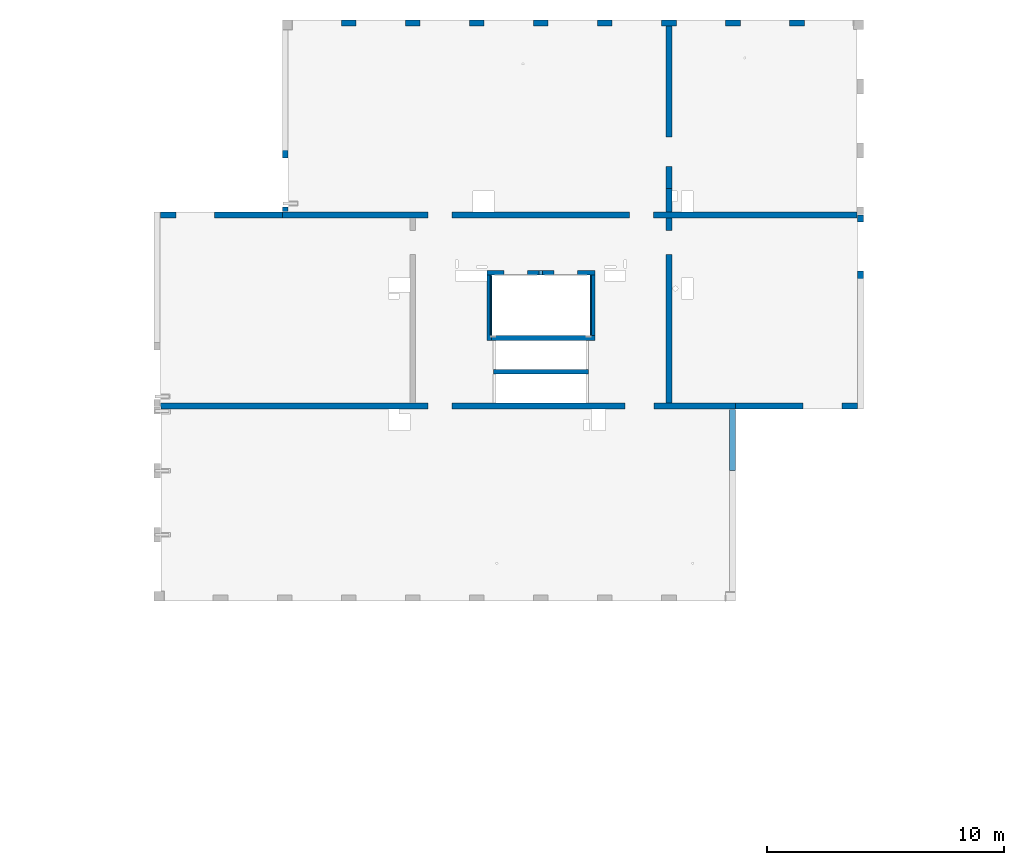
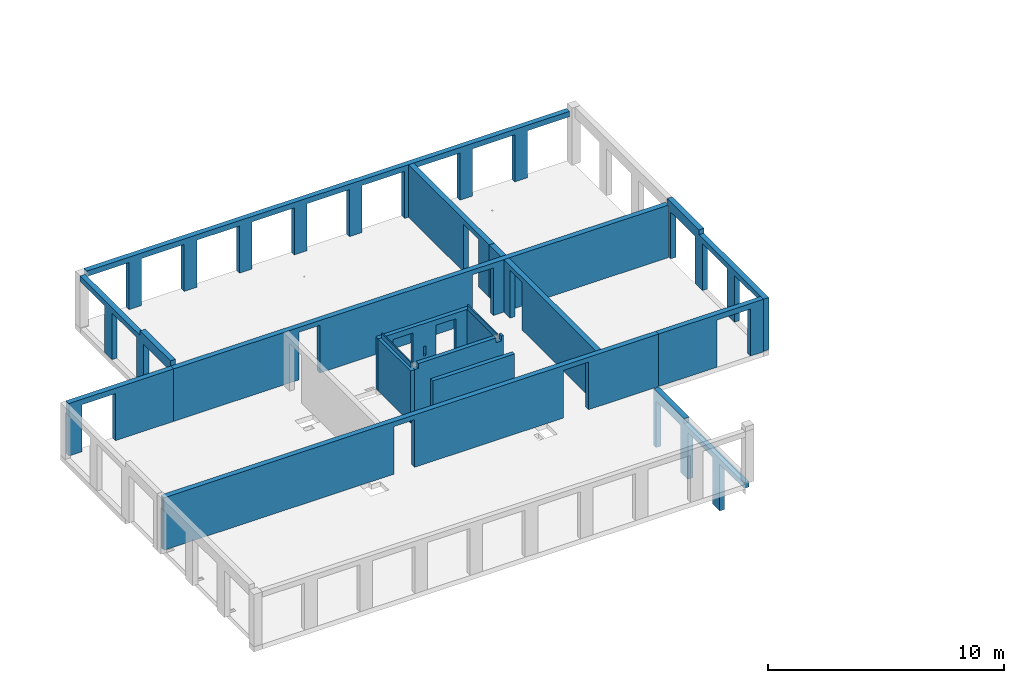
# One storey, part 4 of 12: 18 walls, 35 openings.
"""IFC2X3 building model written with IfcOpenShell, lengths in millimetres."""

from ifc_helpers import new_model, entity, si_unit, converted_unit, derived_unit, direction, frame, frame_2d, origin, origin_2d_with_axis, place, context, subcontext, project, spatial, rectangle, extrude, material, layer, layer_set, layer_usage, type_object, element, save


model = new_model("IFC2X3")

# Units and contexts
model_context = context("Model", 3, precision=0.01, world=origin(), true_north=direction((6.12303176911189e-17, 1.0)))
body_context = subcontext(model_context, "Body", "Model", "MODEL_VIEW")
ifc_project = project(units=[si_unit("LENGTHUNIT", "METRE", prefix="MILLI"), si_unit("AREAUNIT", "SQUARE_METRE"), si_unit("VOLUMEUNIT", "CUBIC_METRE"), converted_unit("PLANEANGLEUNIT", "DEGREE", entity("IfcRatioMeasure", 0.0174532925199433), si_unit("PLANEANGLEUNIT", "RADIAN"), dimensions=[0, 0, 0, 0, 0, 0, 0]), si_unit("MASSUNIT", "GRAM", prefix="KILO"), derived_unit("MASSDENSITYUNIT", [(si_unit("MASSUNIT", "GRAM", prefix="KILO"), 1), (si_unit("LENGTHUNIT", "METRE"), -3)]), si_unit("TIMEUNIT", "SECOND"), si_unit("FREQUENCYUNIT", "HERTZ"), si_unit("THERMODYNAMICTEMPERATUREUNIT", "DEGREE_CELSIUS"), derived_unit("THERMALTRANSMITTANCEUNIT", [(si_unit("MASSUNIT", "GRAM", prefix="KILO"), 1), (si_unit("THERMODYNAMICTEMPERATUREUNIT", "KELVIN"), -1), (si_unit("TIMEUNIT", "SECOND"), -3)]), derived_unit("VOLUMETRICFLOWRATEUNIT", [(si_unit("LENGTHUNIT", "METRE"), 3), (si_unit("TIMEUNIT", "SECOND"), -1)]), si_unit("ELECTRICCURRENTUNIT", "AMPERE"), si_unit("ELECTRICVOLTAGEUNIT", "VOLT"), si_unit("POWERUNIT", "WATT"), si_unit("FORCEUNIT", "NEWTON", prefix="KILO"), si_unit("ILLUMINANCEUNIT", "LUX"), si_unit("LUMINOUSFLUXUNIT", "LUMEN"), si_unit("LUMINOUSINTENSITYUNIT", "CANDELA"), derived_unit("USERDEFINED", [(si_unit("MASSUNIT", "GRAM", prefix="KILO"), -1), (si_unit("LENGTHUNIT", "METRE"), -2), (si_unit("TIMEUNIT", "SECOND"), 3), (si_unit("LUMINOUSFLUXUNIT", "LUMEN"), 1)]), derived_unit("LINEARVELOCITYUNIT", [(si_unit("LENGTHUNIT", "METRE"), 1), (si_unit("TIMEUNIT", "SECOND"), -1)]), si_unit("PRESSUREUNIT", "PASCAL"), derived_unit("USERDEFINED", [(si_unit("LENGTHUNIT", "METRE"), -2), (si_unit("MASSUNIT", "GRAM", prefix="KILO"), 1), (si_unit("TIMEUNIT", "SECOND"), -2)])], contexts=[model_context])

# Site, building, storey
site_placement = place(None, origin())
site = spatial("IfcSite", under=ifc_project, at=site_placement, Name="Default", CompositionType="ELEMENT")
building_placement = place(site_placement, origin())
building = spatial("IfcBuilding", under=site, at=building_placement, Name="niet gebruiken", CompositionType="ELEMENT")
storey_placement = place(building_placement, frame((0.0, 0.0, 18540.0)))
storey = spatial("IfcBuildingStorey", under=building, at=storey_placement, Name="06 zesde verdieping", CompositionType="ELEMENT", Elevation=18540.0)

# Wall, openings
ifc_material_1 = material(Name="NLRS_f2_beton ihwg")
ifc_layer_1 = layer(ifc_material_1, 250.0)
ifc_layer_set_1 = layer_set([ifc_layer_1], Name="Basic Wall:NLRS_22.21_WA_beton ihwg d=250_gen")
ifc_layer_usage_1 = layer_usage(ifc_layer_set_1, "AXIS2", "NEGATIVE", 125.0)
wall_type_1 = type_object("IfcWallType", Name="Basic Wall:NLRS_22.21_WA_beton ihwg d=250_gen", PredefinedType="STANDARD", material=ifc_layer_set_1)
wall_1_placement = place(storey_placement, frame((27170.0, 36981.0, -90.0)))
wall_1 = element("IfcWallStandardCase", 1, at=wall_1_placement, inside=storey, type_object=wall_type_1, material=ifc_layer_usage_1, Name="Basic Wall:NLRS_22.21_WA_beton ihwg d=250_gen", ObjectType="Basic Wall:NLRS_22.21_WA_beton ihwg d=250_gen", context=body_context, shape_type="SweptSolid", body=[
    extrude(rectangle(XDim=24230.0, YDim=250.000000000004, at=frame_2d((12115.0, 0.0), x_axis=(-1.0, 0.0))), origin(), (0.0, 0.0, 1.0), 2719.99999999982),
])
opening_1_placement = place(wall_1_placement, origin())
element("IfcOpeningElement", 2, at=opening_1_placement, cuts=wall_1, Name="Basic Wall:NLRS_22.21_WA_beton ihwg d=250_gen", ObjectType="Opening", context=body_context, shape_type="SweptSolid", body=[
    extrude(rectangle(XDim=2470.0, YDim=1225.0, at=frame_2d((0.0, 0.0), x_axis=(0.0, 1.0))), frame((20192.5000000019, -1399.0, 1235.0), z_axis=(0.0, 1.0, 0.0), x_axis=(-1.0, 0.0, 0.0)), (0.0, 0.0, 1.0), 3048.0),
])
opening_2_placement = place(wall_1_placement, origin())
element("IfcOpeningElement", 3, at=opening_2_placement, cuts=wall_1, Name="Basic Wall:NLRS_22.21_WA_beton ihwg d=250_gen", ObjectType="Opening", context=body_context, shape_type="SweptSolid", body=[
    extrude(rectangle(XDim=2470.0, YDim=1006.0, at=frame_2d((2.1600499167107e-12, 3.29691829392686e-12), x_axis=(0.0, 1.0))), frame((11782.0, -1399.0, 1235.0), z_axis=(0.0, 1.0, 0.0), x_axis=(-1.0, 0.0, 0.0)), (0.0, 0.0, 1.0), 3048.0),
])
opening_3_placement = place(wall_1_placement, origin())
element("IfcOpeningElement", 4, at=opening_3_placement, cuts=wall_1, Name="Basic Wall:NLRS_22.21_WA_beton ihwg d=250_gen", ObjectType="Recess", context=body_context, shape_type="SweptSolid", body=[
    extrude(rectangle(XDim=55000.0, YDim=20.0000000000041, at=frame_2d((0.0, -2.16626716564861e-12), x_axis=(1.0, 0.0))), frame((10.0, -140.0, 21560.0), z_axis=(0.0, 1.0, 0.0), x_axis=(0.0, 0.0, -1.0)), (0.0, 0.0, 1.0), 124.999999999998),
])

# Wall, opening
ifc_layer_usage_2 = layer_usage(ifc_layer_set_1, "AXIS2", "NEGATIVE", 125.0)
wall_2_placement = place(storey_placement, frame((27170.0, 45031.0, -90.0)))
wall_2 = element("IfcWallStandardCase", 5, at=wall_2_placement, inside=storey, type_object=wall_type_1, material=ifc_layer_usage_2, Name="Basic Wall:NLRS_22.21_WA_beton ihwg d=250_gen", ObjectType="Basic Wall:NLRS_22.21_WA_beton ihwg d=250_gen", context=body_context, shape_type="SweptSolid", body=[
    extrude(rectangle(XDim=5130.0, YDim=249.999999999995, at=frame_2d((2565.0, 0.0), x_axis=(-1.0, 0.0))), origin(), (0.0, 0.0, 1.0), 2719.99999999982),
])
opening_4_placement = place(wall_2_placement, origin())
element("IfcOpeningElement", 6, at=opening_4_placement, cuts=wall_2, Name="Basic Wall:NLRS_22.21_WA_beton ihwg d=250_gen", ObjectType="Opening", context=body_context, shape_type="SweptSolid", body=[
    extrude(rectangle(XDim=2440.0, YDim=1640.0, at=frame_2d((-1.13686837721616e-12, 0.0), x_axis=(1.0, 0.0))), frame((1460.0, -1649.0, 1220.0), z_axis=(0.0, 1.0, 0.0), x_axis=(0.0, 0.0, 1.0)), (0.0, 0.0, 1.0), 3048.0),
])

ifc_layer_usage_3 = layer_usage(ifc_layer_set_1, "AXIS2", "NEGATIVE", 125.0)
wall_3_placement = place(storey_placement, frame((48600.0, 53006.0, -90.0), z_axis=(0.0, 0.0, 1.0), x_axis=(0.0, -1.0, 0.0)))
wall_3 = element("IfcWallStandardCase", 7, at=wall_3_placement, inside=storey, type_object=wall_type_1, material=ifc_layer_usage_3, Name="Basic Wall:NLRS_22.21_WA_beton ihwg d=250_gen", ObjectType="Basic Wall:NLRS_22.21_WA_beton ihwg d=250_gen", context=body_context, shape_type="SweptSolid", body=[
    extrude(rectangle(XDim=6850.00000000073, YDim=249.999999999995, at=frame_2d((3425.00000000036, -1.10134124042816e-12), x_axis=(-1.0, 0.0))), origin(), (0.0, 0.0, 1.0), 2719.99999999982),
])
opening_5_placement = place(wall_3_placement, origin())
element("IfcOpeningElement", 8, at=opening_5_placement, cuts=wall_3, Name="Basic Wall:NLRS_22.21_WA_beton ihwg d=250_gen", ObjectType="Opening", context=body_context, shape_type="SweptSolid", body=[
    extrude(rectangle(XDim=2470.0, YDim=1240.0, at=frame_2d((0.0, 4.37694325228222e-12), x_axis=(1.0, 0.0))), frame((5300.0, -1649.0, 1235.0), z_axis=(0.0, 1.0, 0.0), x_axis=(0.0, 0.0, 1.0)), (0.0, 0.0, 1.0), 3048.0),
])

ifc_layer_usage_4 = layer_usage(ifc_layer_set_1, "AXIS2", "NEGATIVE", 125.0)
wall_4_placement = place(storey_placement, frame((48600.0, 44906.0, -90.0), z_axis=(0.0, 0.0, 1.0), x_axis=(0.0, -1.0, 0.0)))
wall_4 = element("IfcWallStandardCase", 9, at=wall_4_placement, inside=storey, type_object=wall_type_1, material=ifc_layer_usage_4, Name="Basic Wall:NLRS_22.21_WA_beton ihwg d=250_gen", ObjectType="Basic Wall:NLRS_22.21_WA_beton ihwg d=250_gen", context=body_context, shape_type="SweptSolid", body=[
    extrude(rectangle(XDim=7799.99999999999, YDim=249.999999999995, at=frame_2d((3900.0, 0.0), x_axis=(-1.0, 0.0))), origin(), (0.0, 0.0, 1.0), 2719.99999999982),
])
opening_6_placement = place(wall_4_placement, origin())
element("IfcOpeningElement", 10, at=opening_6_placement, cuts=wall_4, Name="Basic Wall:NLRS_22.21_WA_beton ihwg d=250_gen", ObjectType="Opening", context=body_context, shape_type="SweptSolid", body=[
    extrude(rectangle(XDim=2470.0, YDim=1006.0, at=origin_2d_with_axis()), frame((1027.0, -1649.0, 1235.0), z_axis=(0.0, 1.0, 0.0), x_axis=(0.0, 0.0, 1.0)), (0.0, 0.0, 1.0), 3048.0),
])

# Wall, openings
ifc_layer_usage_5 = layer_usage(ifc_layer_set_1, "AXIS2", "NEGATIVE", 125.0)
wall_5_placement = place(storey_placement, frame((32300.0, 45031.0, -90.0)))
wall_5 = element("IfcWallStandardCase", 11, at=wall_5_placement, inside=storey, type_object=wall_type_1, material=ifc_layer_usage_5, Name="Basic Wall:NLRS_22.21_WA_beton ihwg d=250_gen", ObjectType="Basic Wall:NLRS_22.21_WA_beton ihwg d=250_gen", context=body_context, shape_type="SweptSolid", body=[
    extrude(rectangle(XDim=24230.0000000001, YDim=249.999999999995, at=frame_2d((12115.0000000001, 0.0), x_axis=(-1.0, 0.0))), origin(), (0.0, 0.0, 1.0), 2719.99999999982),
])
opening_7_placement = place(wall_5_placement, origin())
element("IfcOpeningElement", 12, at=opening_7_placement, cuts=wall_5, Name="Basic Wall:NLRS_22.21_WA_beton ihwg d=250_gen", ObjectType="Opening", context=body_context, shape_type="SweptSolid", body=[
    extrude(rectangle(XDim=2470.0, YDim=1006.0, at=origin_2d_with_axis()), frame((15148.0, -1649.0, 1235.0), z_axis=(0.0, 1.0, 0.0), x_axis=(0.0, 0.0, 1.0)), (0.0, 0.0, 1.0), 3048.0),
])
opening_8_placement = place(wall_5_placement, origin())
element("IfcOpeningElement", 13, at=opening_8_placement, cuts=wall_5, Name="Basic Wall:NLRS_22.21_WA_beton ihwg d=250_gen", ObjectType="Opening", context=body_context, shape_type="SweptSolid", body=[
    extrude(rectangle(XDim=2470.0, YDim=1006.0, at=frame_2d((0.0, 2.1600499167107e-12), x_axis=(1.0, 0.0))), frame((6652.0, -1649.0, 1235.0), z_axis=(0.0, 1.0, 0.0), x_axis=(0.0, 0.0, 1.0)), (0.0, 0.0, 1.0), 3048.0),
])

# Wall, opening
ifc_layer_usage_6 = layer_usage(ifc_layer_set_1, "AXIS2", "NEGATIVE", 125.0)
wall_6_placement = place(storey_placement, frame((51400.0, 36981.0, -90.0)))
wall_6 = element("IfcWallStandardCase", 14, at=wall_6_placement, inside=storey, type_object=wall_type_1, material=ifc_layer_usage_6, Name="Basic Wall:NLRS_22.21_WA_beton ihwg d=250_gen", ObjectType="Basic Wall:NLRS_22.21_WA_beton ihwg d=250_gen", context=body_context, shape_type="SweptSolid", body=[
    extrude(rectangle(XDim=5150.0, YDim=250.000000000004, at=frame_2d((2575.0, 0.0), x_axis=(-1.0, 0.0))), origin(), (0.0, 0.0, 1.0), 2719.99999999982),
])
opening_9_placement = place(wall_6_placement, origin())
element("IfcOpeningElement", 15, at=opening_9_placement, cuts=wall_6, Name="Basic Wall:NLRS_22.21_WA_beton ihwg d=250_gen", ObjectType="Opening", context=body_context, shape_type="SweptSolid", body=[
    extrude(rectangle(XDim=2440.0, YDim=1640.0, at=frame_2d((4.37694325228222e-12, -1.13686837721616e-12), x_axis=(0.0, 1.0))), frame((3670.0, -1399.0, 1220.0), z_axis=(0.0, 1.0, 0.0), x_axis=(-1.0, 0.0, 0.0)), (0.0, 0.0, 1.0), 3048.0),
])

# Wall
ifc_layer_usage_7 = layer_usage(ifc_layer_set_1, "AXIS2", "NEGATIVE", 125.0)
wall_7_placement = place(storey_placement, frame((48600.0, 46156.0, -90.0), z_axis=(0.0, 0.0, 1.0), x_axis=(0.0, -1.0, 0.0)))
element("IfcWallStandardCase", 16, at=wall_7_placement, inside=storey, type_object=wall_type_1, material=ifc_layer_usage_7, Name="Basic Wall:NLRS_22.21_WA_beton ihwg d=250_gen", ObjectType="Basic Wall:NLRS_22.21_WA_beton ihwg d=250_gen", context=body_context, shape_type="SweptSolid", body=[
    extrude(rectangle(XDim=999.999999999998, YDim=249.999999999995, at=frame_2d((499.999999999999, 1.10134124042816e-12), x_axis=(-1.0, 0.0))), origin(), (0.0, 0.0, 1.0), 2719.99999999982),
])

# Wall, openings
ifc_material_2 = material(Name="NLRS_f2_beton prefab")
ifc_layer_2 = layer(ifc_material_2, 250.0)
ifc_layer_set_2 = layer_set([ifc_layer_2], Name="Basic Wall:NLRS_21.21_WA_beton prefab d=250_gen")
ifc_layer_usage_8 = layer_usage(ifc_layer_set_2, "AXIS2", "NEGATIVE", 125.0)
wall_type_2 = type_object("IfcWallType", Name="Basic Wall:NLRS_21.21_WA_beton prefab d=250_gen", PredefinedType="STANDARD", material=ifc_layer_set_2)
wall_8_placement = place(storey_placement, frame((32425.0, 52846.0, -70.0), z_axis=(0.0, 0.0, 1.0), x_axis=(0.0, -1.0, 0.0)))
wall_8 = element("IfcWallStandardCase", 17, at=wall_8_placement, inside=storey, type_object=wall_type_2, material=ifc_layer_usage_8, Name="Basic Wall:NLRS_21.21_WA_beton prefab d=250_gen", ObjectType="Basic Wall:NLRS_21.21_WA_beton prefab d=250_gen", context=body_context, shape_type="SweptSolid", body=[
    extrude(rectangle(XDim=7670.00000000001, YDim=250.000000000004, at=frame_2d((3835.0, 0.0), x_axis=(-1.0, 0.0))), origin(), (0.0, 0.0, 1.0), 2949.99999999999),
])
opening_10_placement = place(wall_8_placement, origin())
element("IfcOpeningElement", 18, at=opening_10_placement, cuts=wall_8, Name="Basic Wall:NLRS_21.21_WA_beton prefab d=250_gen", ObjectType="Opening", context=body_context, shape_type="SweptSolid", body=[
    extrude(rectangle(XDim=2420.0, YDim=2080.0, at=frame_2d((8.64019966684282e-12, 2.1600499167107e-12), x_axis=(0.0, 1.0))), frame((1040.0, -1399.0, 1210.0), z_axis=(0.0, 1.0, 0.0), x_axis=(-1.0, 0.0, 0.0)), (0.0, 0.0, 1.0), 3048.0),
])
opening_11_placement = place(wall_8_placement, origin())
element("IfcOpeningElement", 19, at=opening_11_placement, cuts=wall_8, Name="Basic Wall:NLRS_21.21_WA_beton prefab d=250_gen", ObjectType="Opening", context=body_context, shape_type="SweptSolid", body=[
    extrude(rectangle(XDim=2420.0, YDim=2080.0, at=frame_2d((0.0, -2.1600499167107e-12), x_axis=(0.0, 1.0))), frame((3740.0, -1399.0, 1210.0), z_axis=(0.0, 1.0, 0.0), x_axis=(-1.0, 0.0, 0.0)), (0.0, 0.0, 1.0), 3048.0),
])
opening_12_placement = place(wall_8_placement, origin())
element("IfcOpeningElement", 20, at=opening_12_placement, cuts=wall_8, Name="Basic Wall:NLRS_21.21_WA_beton prefab d=250_gen", ObjectType="Opening", context=body_context, shape_type="SweptSolid", body=[
    extrude(rectangle(XDim=2420.0, YDim=2080.0, at=frame_2d((0.0, 2.1600499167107e-12), x_axis=(0.0, 1.0))), frame((6440.0, -1399.0, 1210.0), z_axis=(0.0, 1.0, 0.0), x_axis=(-1.0, 0.0, 0.0)), (0.0, 0.0, 1.0), 3048.0),
])
opening_13_placement = place(wall_8_placement, origin())
element("IfcOpeningElement", 21, at=opening_13_placement, cuts=wall_8, Name="Basic Wall:NLRS_21.21_WA_beton prefab d=250_gen", ObjectType="Opening", context=body_context, shape_type="SweptSolid", body=[
    extrude(rectangle(XDim=250.000000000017, YDim=5089.99999999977, at=frame_2d((4.32009983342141e-12, 2.16715534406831e-12), x_axis=(0.0, 1.0))), frame((2545.0, 125.0, 2825.0), z_axis=(0.0, -1.0, 0.0), x_axis=(-1.0, 0.0, 0.0)), (0.0, 0.0, 1.0), 250.0),
])

ifc_layer_usage_9 = layer_usage(ifc_layer_set_2, "AXIS2", "NEGATIVE", 125.0)
wall_9_placement = place(storey_placement, frame((56675.0, 45046.0, -70.0), z_axis=(0.0, 0.0, 1.0), x_axis=(0.0, -1.0, 0.0)))
wall_9 = element("IfcWallStandardCase", 22, at=wall_9_placement, inside=storey, type_object=wall_type_2, material=ifc_layer_usage_9, Name="Basic Wall:NLRS_21.21_WA_beton prefab d=250_gen", ObjectType="Basic Wall:NLRS_21.21_WA_beton prefab d=250_gen", context=body_context, shape_type="SweptSolid", body=[
    extrude(rectangle(XDim=8189.99999999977, YDim=249.999999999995, at=frame_2d((4094.99999999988, 0.0), x_axis=(-1.0, 0.0))), origin(), (0.0, 0.0, 1.0), 2949.99999999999),
])
opening_14_placement = place(wall_9_placement, origin())
element("IfcOpeningElement", 23, at=opening_14_placement, cuts=wall_9, Name="Basic Wall:NLRS_21.21_WA_beton prefab d=250_gen", ObjectType="Opening", context=body_context, shape_type="SweptSolid", body=[
    extrude(rectangle(XDim=2420.0, YDim=2080.0, at=frame_2d((0.0, 1.02318153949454e-12), x_axis=(0.0, 1.0))), frame((1340.0, -1399.0, 1210.0), z_axis=(0.0, 1.0, 0.0), x_axis=(-1.0, 0.0, 0.0)), (0.0, 0.0, 1.0), 3048.0),
])
opening_15_placement = place(wall_9_placement, origin())
element("IfcOpeningElement", 24, at=opening_15_placement, cuts=wall_9, Name="Basic Wall:NLRS_21.21_WA_beton prefab d=250_gen", ObjectType="Opening", context=body_context, shape_type="SweptSolid", body=[
    extrude(rectangle(XDim=2420.0, YDim=2080.0, at=frame_2d((0.0, 1.02318153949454e-12), x_axis=(0.0, 1.0))), frame((4040.0, -1399.0, 1210.0), z_axis=(0.0, 1.0, 0.0), x_axis=(-1.0, 0.0, 0.0)), (0.0, 0.0, 1.0), 3048.0),
])
opening_16_placement = place(wall_9_placement, origin())
element("IfcOpeningElement", 25, at=opening_16_placement, cuts=wall_9, Name="Basic Wall:NLRS_21.21_WA_beton prefab d=250_gen", ObjectType="Opening", context=body_context, shape_type="SweptSolid", body=[
    extrude(rectangle(XDim=2420.0, YDim=2080.0, at=frame_2d((0.0, 1.02318153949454e-12), x_axis=(0.0, 1.0))), frame((6740.0, -1399.0, 1210.0), z_axis=(0.0, 1.0, 0.0), x_axis=(-1.0, 0.0, 0.0)), (0.0, 0.0, 1.0), 3048.0),
])
opening_17_placement = place(wall_9_placement, origin())
element("IfcOpeningElement", 26, at=opening_17_placement, cuts=wall_9, Name="Basic Wall:NLRS_21.21_WA_beton prefab d=250_gen", ObjectType="Opening", context=body_context, shape_type="SweptSolid", body=[
    extrude(rectangle(XDim=249.999999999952, YDim=5500.0000000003, at=frame_2d((4.33431068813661e-12, -4.32009983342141e-12), x_axis=(1.0, 0.0))), frame((5440.0, 125.0, 2825.0), z_axis=(0.0, -1.0, 0.0), x_axis=(0.0, 0.0, 1.0)), (0.0, 0.0, 1.0), 250.0),
])

ifc_layer_usage_10 = layer_usage(ifc_layer_set_2, "AXIS2", "NEGATIVE", 125.0)
wall_10_placement = place(storey_placement, frame((51275.0, 29166.0, -3040.0), z_axis=(0.0, 0.0, 1.0), x_axis=(0.0, 1.0, 0.0)))
wall_10 = element("IfcWallStandardCase", 27, at=wall_10_placement, inside=storey, type_object=wall_type_2, material=ifc_layer_usage_10, Name="Basic Wall:NLRS_21.21_WA_beton prefab d=250_gen", ObjectType="Basic Wall:NLRS_21.21_WA_beton prefab d=250_gen", context=body_context, shape_type="SweptSolid", body=[
    extrude(rectangle(XDim=7669.99999999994, YDim=249.999999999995, at=frame_2d((3834.99999999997, 0.0), x_axis=(-1.0, 0.0))), origin(), (0.0, 0.0, 1.0), 2949.99999999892),
])
opening_18_placement = place(wall_10_placement, origin())
element("IfcOpeningElement", 28, at=opening_18_placement, cuts=wall_10, Name="Basic Wall:NLRS_21.21_WA_beton prefab d=250_gen", ObjectType="Opening", context=body_context, shape_type="SweptSolid", body=[
    extrude(rectangle(XDim=2420.0, YDim=2080.0, at=frame_2d((2.1600499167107e-12, -1.02318153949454e-12), x_axis=(0.0, 1.0))), frame((1040.0, -1399.0, 1210.0), z_axis=(0.0, 1.0, 0.0), x_axis=(-1.0, 0.0, 0.0)), (0.0, 0.0, 1.0), 3048.0),
])
opening_19_placement = place(wall_10_placement, origin())
element("IfcOpeningElement", 29, at=opening_19_placement, cuts=wall_10, Name="Basic Wall:NLRS_21.21_WA_beton prefab d=250_gen", ObjectType="Opening", context=body_context, shape_type="SweptSolid", body=[
    extrude(rectangle(XDim=2420.0, YDim=2080.0, at=frame_2d((2.1600499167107e-12, -1.02318153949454e-12), x_axis=(0.0, 1.0))), frame((3740.0, -1399.0, 1210.0), z_axis=(0.0, 1.0, 0.0), x_axis=(-1.0, 0.0, 0.0)), (0.0, 0.0, 1.0), 3048.0),
])
opening_20_placement = place(wall_10_placement, origin())
element("IfcOpeningElement", 30, at=opening_20_placement, cuts=wall_10, Name="Basic Wall:NLRS_21.21_WA_beton prefab d=250_gen", ObjectType="Opening", context=body_context, shape_type="SweptSolid", body=[
    extrude(rectangle(XDim=2420.0, YDim=2080.0, at=frame_2d((2.1600499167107e-12, -1.02318153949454e-12), x_axis=(0.0, 1.0))), frame((6440.0, -1399.0, 1210.0), z_axis=(0.0, 1.0, 0.0), x_axis=(-1.0, 0.0, 0.0)), (0.0, 0.0, 1.0), 3048.0),
])
opening_21_placement = place(wall_10_placement, origin())
element("IfcOpeningElement", 31, at=opening_21_placement, cuts=wall_10, Name="Basic Wall:NLRS_21.21_WA_beton prefab d=250_gen", ObjectType="Opening", context=body_context, shape_type="SweptSolid", body=[
    extrude(rectangle(XDim=249.999999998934, YDim=5090.00000000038, at=frame_2d((0.0, -2.16715534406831e-12), x_axis=(0.0, 1.0))), frame((2545.0, 125.0, 2825.0), z_axis=(0.0, -1.0, 0.0), x_axis=(-1.0, 0.0, 0.0)), (0.0, 0.0, 1.0), 250.0),
])

# Wall
ifc_layer_3 = layer(ifc_material_2, 200.0)
ifc_layer_set_3 = layer_set([ifc_layer_3], Name="Basic Wall:NLRS_21.21_WA_beton prefab d=200_gen")
ifc_layer_usage_11 = layer_usage(ifc_layer_set_3, "AXIS2", "NEGATIVE", 100.0)
wall_type_3 = type_object("IfcWallType", Name="Basic Wall:NLRS_21.21_WA_beton prefab d=200_gen", PredefinedType="STANDARD", material=ifc_layer_set_3)
wall_11_placement = place(storey_placement, frame((41200.0, 38426.0, -70.0)))
element("IfcWallStandardCase", 32, at=wall_11_placement, inside=storey, type_object=wall_type_3, material=ifc_layer_usage_11, Name="Basic Wall:NLRS_21.21_WA_beton prefab d=200_gen", ObjectType="Basic Wall:NLRS_21.21_WA_beton prefab d=200_gen", context=body_context, shape_type="SweptSolid", body=[
    extrude(rectangle(XDim=3999.99999999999, YDim=199.999999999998, at=frame_2d((2000.0, 0.0), x_axis=(-1.0, 0.0))), origin(), (0.0, 0.0, 1.0), 2950.00000000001),
])

# Wall, openings
ifc_layer_4 = layer(ifc_material_2, 200.0)
ifc_layer_set_4 = layer_set([ifc_layer_4], Name="Basic Wall:NLRS_22.21_WA_beton prefab d=200_gen")
ifc_layer_usage_12 = layer_usage(ifc_layer_set_4, "AXIS2", "NEGATIVE", 100.0)
wall_type_4 = type_object("IfcWallType", Name="Basic Wall:NLRS_22.21_WA_beton prefab d=200_gen", PredefinedType="STANDARD", material=ifc_layer_set_4)
wall_12_placement = place(storey_placement, frame((40925.0, 42596.0, -70.0)))
wall_12 = element("IfcWallStandardCase", 33, at=wall_12_placement, inside=storey, type_object=wall_type_4, material=ifc_layer_usage_12, Name="Basic Wall:NLRS_22.21_WA_beton prefab d=200_gen", ObjectType="Basic Wall:NLRS_22.21_WA_beton prefab d=200_gen", context=body_context, shape_type="SweptSolid", body=[
    extrude(rectangle(XDim=4549.99999999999, YDim=200.000000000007, at=frame_2d((2274.99999999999, 7.8159700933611e-13), x_axis=(-1.0, 0.0))), origin(), (0.0, 0.0, 1.0), 2700.00000000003),
])
opening_22_placement = place(wall_12_placement, origin())
element("IfcOpeningElement", 34, at=opening_22_placement, cuts=wall_12, Name="Basic Wall:NLRS_22.21_WA_beton prefab d=200_gen", ObjectType="Opening", context=body_context, shape_type="SweptSolid", body=[
    extrude(rectangle(XDim=2430.0, YDim=980.000000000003, at=origin_2d_with_axis()), frame((1219.99984910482, -1624.0, 1195.0), z_axis=(0.0, 1.0, 0.0), x_axis=(0.0, 0.0, 1.0)), (0.0, 0.0, 1.0), 3048.0),
])
opening_23_placement = place(wall_12_placement, origin())
element("IfcOpeningElement", 35, at=opening_23_placement, cuts=wall_12, Name="Basic Wall:NLRS_22.21_WA_beton prefab d=200_gen", ObjectType="Opening", context=body_context, shape_type="SweptSolid", body=[
    extrude(rectangle(XDim=2430.0, YDim=980.000000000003, at=origin_2d_with_axis()), frame((3329.99984910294, -1624.0, 1195.0), z_axis=(0.0, 1.0, 0.0), x_axis=(0.0, 0.0, 1.0)), (0.0, 0.0, 1.0), 3048.0),
])
opening_24_placement = place(wall_12_placement, origin())
element("IfcOpeningElement", 36, at=opening_24_placement, cuts=wall_12, Name="Basic Wall:NLRS_22.21_WA_beton prefab d=200_gen", ObjectType="Opening", context=body_context, shape_type="SweptSolid", body=[
    extrude(rectangle(XDim=505.000000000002, YDim=135.000000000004, at=frame_2d((-2.1600499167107e-12, 0.0), x_axis=(1.0, 0.0))), frame((2275.0, -1624.0, 1272.50000000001), z_axis=(0.0, 1.0, 0.0), x_axis=(0.0, 0.0, 1.0)), (0.0, 0.0, 1.0), 3048.0),
])

# Wall
ifc_layer_usage_13 = layer_usage(ifc_layer_set_4, "AXIS2", "NEGATIVE", 100.0)
wall_13_placement = place(storey_placement, frame((41025.0, 42496.0, -70.0), z_axis=(0.0, 0.0, 1.0), x_axis=(0.0, -1.0, 0.0)))
element("IfcWallStandardCase", 37, at=wall_13_placement, inside=storey, type_object=wall_type_4, material=ifc_layer_usage_13, Name="Basic Wall:NLRS_22.21_WA_beton prefab d=200_gen", ObjectType="Basic Wall:NLRS_22.21_WA_beton prefab d=200_gen", context=body_context, shape_type="SweptSolid", body=[
    extrude(rectangle(XDim=2749.99999999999, YDim=200.000000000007, at=frame_2d((1375.0, 0.0), x_axis=(-1.0, 0.0))), origin(), (0.0, 0.0, 1.0), 2700.00000000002),
])

# Wall, openings
ifc_layer_usage_14 = layer_usage(ifc_layer_set_4, "AXIS2", "NEGATIVE", 100.0)
wall_14_placement = place(storey_placement, frame((45475.0, 39846.0, -70.0), z_axis=(0.0, 0.0, 1.0), x_axis=(-1.0, 0.0, 0.0)))
wall_14 = element("IfcWallStandardCase", 38, at=wall_14_placement, inside=storey, type_object=wall_type_4, material=ifc_layer_usage_14, Name="Basic Wall:NLRS_22.21_WA_beton prefab d=200_gen", ObjectType="Basic Wall:NLRS_22.21_WA_beton prefab d=200_gen", context=body_context, shape_type="SweptSolid", body=[
    extrude(rectangle(XDim=4349.99999999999, YDim=200.000000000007, at=frame_2d((2174.99999999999, 0.0), x_axis=(-1.0, 0.0))), origin(), (0.0, 0.0, 1.0), 2950.0),
])
opening_25_placement = place(wall_14_placement, origin())
element("IfcOpeningElement", 39, at=opening_25_placement, cuts=wall_14, Name="Basic Wall:NLRS_22.21_WA_beton prefab d=200_gen", ObjectType="Opening", context=body_context, shape_type="SweptSolid", body=[
    extrude(rectangle(XDim=249.999999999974, YDim=274.9999671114, at=frame_2d((2.16715534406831e-12, -4.33431068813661e-12), x_axis=(1.0, 0.0))), frame((4312.50001644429, 100.0, 2825.0), z_axis=(0.0, -1.0, 0.0), x_axis=(0.0, 0.0, 1.0)), (0.0, 0.0, 1.0), 200.0),
])
opening_26_placement = place(wall_14_placement, origin())
element("IfcOpeningElement", 40, at=opening_26_placement, cuts=wall_14, Name="Basic Wall:NLRS_22.21_WA_beton prefab d=200_gen", ObjectType="Opening", context=body_context, shape_type="SweptSolid", body=[
    extrude(rectangle(XDim=249.999999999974, YDim=275.000032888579, at=frame_2d((4.32009983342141e-12, 2.16715534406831e-12), x_axis=(0.0, 1.0))), frame((237.500016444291, 100.0, 2825.0), z_axis=(0.0, -1.0, 0.0), x_axis=(-1.0, 0.0, 0.0)), (0.0, 0.0, 1.0), 200.0),
])

# Wall
ifc_layer_usage_15 = layer_usage(ifc_layer_set_4, "AXIS2", "NEGATIVE", 100.0)
wall_15_placement = place(storey_placement, frame((45375.0, 39946.0, -70.0), z_axis=(0.0, 0.0, 1.0), x_axis=(0.0, 1.0, 0.0)))
element("IfcWallStandardCase", 41, at=wall_15_placement, inside=storey, type_object=wall_type_4, material=ifc_layer_usage_15, Name="Basic Wall:NLRS_22.21_WA_beton prefab d=200_gen", ObjectType="Basic Wall:NLRS_22.21_WA_beton prefab d=200_gen", context=body_context, shape_type="SweptSolid", body=[
    extrude(rectangle(XDim=2549.99999999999, YDim=200.000000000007, at=frame_2d((1275.0, 0.0), x_axis=(-1.0, 0.0))), origin(), (0.0, 0.0, 1.0), 2700.00000000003),
])

# Wall, openings
ifc_layer_5 = layer(ifc_material_1, 250.0)
ifc_layer_set_5 = layer_set([ifc_layer_5], Name="Basic Wall:NLRS_21.21_WA_beton ihwg d=250_gen")
ifc_layer_usage_16 = layer_usage(ifc_layer_set_5, "AXIS2", "NEGATIVE", 125.0)
wall_type_5 = type_object("IfcWallType", Name="Basic Wall:NLRS_21.21_WA_beton ihwg d=250_gen", PredefinedType="STANDARD", material=ifc_layer_set_5)
wall_16_placement = place(storey_placement, frame((56370.0, 53131.0, -90.0), z_axis=(0.0, 0.0, 1.0), x_axis=(-1.0, 0.0, 0.0)))
wall_16 = element("IfcWallStandardCase", 42, at=wall_16_placement, inside=storey, type_object=wall_type_5, material=ifc_layer_usage_16, Name="Basic Wall:NLRS_21.21_WA_beton ihwg d=250_gen", ObjectType="Basic Wall:NLRS_21.21_WA_beton ihwg d=250_gen", context=body_context, shape_type="SweptSolid", body=[
    extrude(rectangle(XDim=23640.0000000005, YDim=249.999999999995, at=frame_2d((11820.0000000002, 5.82645043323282e-13), x_axis=(-1.0, 0.0))), origin(), (0.0, 0.0, 1.0), 2720.0),
])
opening_27_placement = place(wall_16_placement, origin())
element("IfcOpeningElement", 43, at=opening_27_placement, cuts=wall_16, Name="Basic Wall:NLRS_21.21_WA_beton ihwg d=250_gen", ObjectType="Opening", context=body_context, shape_type="SweptSolid", body=[
    extrude(rectangle(XDim=2440.0, YDim=2080.0, at=frame_2d((-2.1600499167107e-12, -2.1600499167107e-12), x_axis=(0.0, 1.0))), frame((22620.0, -1399.0, 1220.0), z_axis=(0.0, 1.0, 0.0), x_axis=(-1.0, 0.0, 0.0)), (0.0, 0.0, 1.0), 3048.0),
])
opening_28_placement = place(wall_16_placement, origin())
element("IfcOpeningElement", 44, at=opening_28_placement, cuts=wall_16, Name="Basic Wall:NLRS_21.21_WA_beton ihwg d=250_gen", ObjectType="Opening", context=body_context, shape_type="SweptSolid", body=[
    extrude(rectangle(XDim=2440.0, YDim=2080.0, at=frame_2d((2.1600499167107e-12, 0.0), x_axis=(0.0, 1.0))), frame((19920.0, -1399.0, 1220.0), z_axis=(0.0, 1.0, 0.0), x_axis=(-1.0, 0.0, 0.0)), (0.0, 0.0, 1.0), 3048.0),
])
opening_29_placement = place(wall_16_placement, origin())
element("IfcOpeningElement", 45, at=opening_29_placement, cuts=wall_16, Name="Basic Wall:NLRS_21.21_WA_beton ihwg d=250_gen", ObjectType="Opening", context=body_context, shape_type="SweptSolid", body=[
    extrude(rectangle(XDim=2440.0, YDim=2079.99999999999, at=frame_2d((2.1600499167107e-12, -2.1600499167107e-12), x_axis=(0.0, 1.0))), frame((17220.0, -1399.0, 1220.0), z_axis=(0.0, 1.0, 0.0), x_axis=(-1.0, 0.0, 0.0)), (0.0, 0.0, 1.0), 3048.0),
])
opening_30_placement = place(wall_16_placement, origin())
element("IfcOpeningElement", 46, at=opening_30_placement, cuts=wall_16, Name="Basic Wall:NLRS_21.21_WA_beton ihwg d=250_gen", ObjectType="Opening", context=body_context, shape_type="SweptSolid", body=[
    extrude(rectangle(XDim=2440.0, YDim=2080.0, at=frame_2d((0.0, 0.0), x_axis=(0.0, 1.0))), frame((14520.0, -1399.0, 1220.0), z_axis=(0.0, 1.0, 0.0), x_axis=(-1.0, 0.0, 0.0)), (0.0, 0.0, 1.0), 3048.0),
])
opening_31_placement = place(wall_16_placement, origin())
element("IfcOpeningElement", 47, at=opening_31_placement, cuts=wall_16, Name="Basic Wall:NLRS_21.21_WA_beton ihwg d=250_gen", ObjectType="Opening", context=body_context, shape_type="SweptSolid", body=[
    extrude(rectangle(XDim=2440.0, YDim=2080.0, at=frame_2d((0.0, -2.1600499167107e-12), x_axis=(0.0, 1.0))), frame((11820.0, -1399.0, 1220.0), z_axis=(0.0, 1.0, 0.0), x_axis=(-1.0, 0.0, 0.0)), (0.0, 0.0, 1.0), 3048.0),
])
opening_32_placement = place(wall_16_placement, origin())
element("IfcOpeningElement", 48, at=opening_32_placement, cuts=wall_16, Name="Basic Wall:NLRS_21.21_WA_beton ihwg d=250_gen", ObjectType="Opening", context=body_context, shape_type="SweptSolid", body=[
    extrude(rectangle(XDim=2440.0, YDim=2080.0, at=frame_2d((0.0, 0.0), x_axis=(0.0, 1.0))), frame((9120.0, -1399.0, 1220.0), z_axis=(0.0, 1.0, 0.0), x_axis=(-1.0, 0.0, 0.0)), (0.0, 0.0, 1.0), 3048.0),
])
opening_33_placement = place(wall_16_placement, origin())
element("IfcOpeningElement", 49, at=opening_33_placement, cuts=wall_16, Name="Basic Wall:NLRS_21.21_WA_beton ihwg d=250_gen", ObjectType="Opening", context=body_context, shape_type="SweptSolid", body=[
    extrude(rectangle(XDim=2440.0, YDim=2080.0, at=frame_2d((0.0, -2.1600499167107e-12), x_axis=(0.0, 1.0))), frame((6420.0, -1399.0, 1220.0), z_axis=(0.0, 1.0, 0.0), x_axis=(-1.0, 0.0, 0.0)), (0.0, 0.0, 1.0), 3048.0),
])
opening_34_placement = place(wall_16_placement, origin())
element("IfcOpeningElement", 50, at=opening_34_placement, cuts=wall_16, Name="Basic Wall:NLRS_21.21_WA_beton ihwg d=250_gen", ObjectType="Opening", context=body_context, shape_type="SweptSolid", body=[
    extrude(rectangle(XDim=2440.0, YDim=2080.0, at=frame_2d((0.0, 0.0), x_axis=(0.0, 1.0))), frame((3720.0, -1399.0, 1220.0), z_axis=(0.0, 1.0, 0.0), x_axis=(-1.0, 0.0, 0.0)), (0.0, 0.0, 1.0), 3048.0),
])
opening_35_placement = place(wall_16_placement, origin())
element("IfcOpeningElement", 51, at=opening_35_placement, cuts=wall_16, Name="Basic Wall:NLRS_21.21_WA_beton ihwg d=250_gen", ObjectType="Opening", context=body_context, shape_type="SweptSolid", body=[
    extrude(rectangle(XDim=2440.0, YDim=2080.0, at=frame_2d((8.64019966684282e-12, -2.1600499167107e-12), x_axis=(0.0, 1.0))), frame((1020.0, -1399.0, 1220.0), z_axis=(0.0, 1.0, 0.0), x_axis=(-1.0, 0.0, 0.0)), (0.0, 0.0, 1.0), 3048.0),
])

# Walls
ifc_layer_6 = layer(ifc_material_2, 60.0)
ifc_layer_set_6 = layer_set([ifc_layer_6], Name="Basic Wall:NLRS_22.21_WA_beton prefab d=60_gen")
ifc_layer_usage_17 = layer_usage(ifc_layer_set_6, "AXIS2", "NEGATIVE", 30.0)
wall_type_6 = type_object("IfcWallType", Name="Basic Wall:NLRS_22.21_WA_beton prefab d=60_gen", PredefinedType="STANDARD", material=ifc_layer_set_6)
wall_17_placement = place(storey_placement, frame((41095.0, 42476.0, 2630.0), z_axis=(0.0, 0.0, 1.0), x_axis=(0.0, -1.0, 0.0)))
element("IfcWallStandardCase", 52, at=wall_17_placement, inside=storey, type_object=wall_type_6, material=ifc_layer_usage_17, Name="Basic Wall:NLRS_22.21_WA_beton prefab d=60_gen", ObjectType="Basic Wall:NLRS_22.21_WA_beton prefab d=60_gen", context=body_context, shape_type="SweptSolid", body=[
    extrude(rectangle(XDim=2509.99999999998, YDim=60.0000000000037, at=frame_2d((1254.99999999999, 0.0), x_axis=(-1.0, 0.0))), origin(), (0.0, 0.0, 1.0), 250.000000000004),
])
ifc_layer_usage_18 = layer_usage(ifc_layer_set_6, "AXIS2", "POSITIVE", -30.0)
wall_18_placement = place(storey_placement, frame((45305.0, 42476.0, 2630.0), z_axis=(0.0, 0.0, 1.0), x_axis=(0.0, -1.0, 0.0)))
element("IfcWallStandardCase", 53, at=wall_18_placement, inside=storey, type_object=wall_type_6, material=ifc_layer_usage_18, Name="Basic Wall:NLRS_22.21_WA_beton prefab d=60_gen", ObjectType="Basic Wall:NLRS_22.21_WA_beton prefab d=60_gen", context=body_context, shape_type="SweptSolid", body=[
    extrude(rectangle(XDim=2509.99999999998, YDim=60.0000000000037, at=frame_2d((1254.99999999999, 0.0), x_axis=(-1.0, 0.0))), origin(), (0.0, 0.0, 1.0), 250.000000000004),
])

save(model, "model.ifc")
